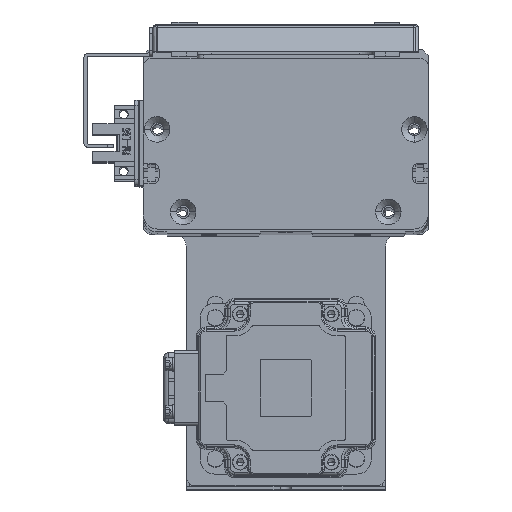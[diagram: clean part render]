
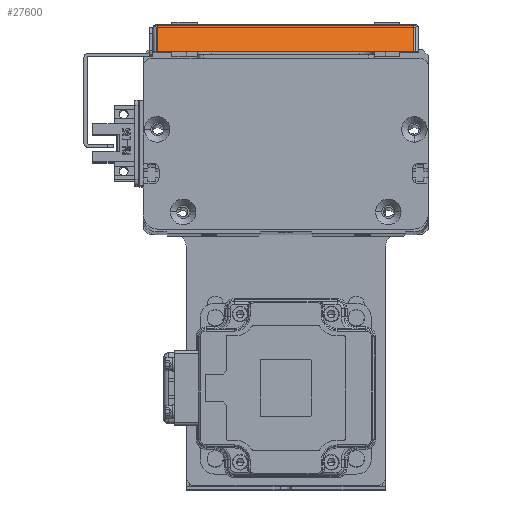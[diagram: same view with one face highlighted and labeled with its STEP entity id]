
A CAD part, top view. The second image highlights one B-rep face of the part: STEP entity #27600.
In plain terms, the highlighted planar face has unit normal (0, 0.707, 0.707) as drawn and (-0.707, 0, -0.707) by its records, which use the part's own axes.
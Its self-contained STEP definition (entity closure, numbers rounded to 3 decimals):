
#1966 = DIRECTION ( 'NONE',  ( 0.707, 0., -0.707 ) ) ;
#4018 = VECTOR ( 'NONE', #33790, 1000. ) ;
#5695 = CARTESIAN_POINT ( 'NONE',  ( -66.5, 93.4, 4.1 ) ) ;
#5907 = AXIS2_PLACEMENT_3D ( 'NONE', #7083, #55774, #40027 ) ;
#6755 = ORIENTED_EDGE ( 'NONE', *, *, #7705, .T. ) ;
#7083 = CARTESIAN_POINT ( 'NONE',  ( -68., 93.4, 5.6 ) ) ;
#7705 = EDGE_CURVE ( 'NONE', #37807, #56204, #13672, .T. ) ;
#8254 = VECTOR ( 'NONE', #59515, 1000. ) ;
#11093 = CARTESIAN_POINT ( 'NONE',  ( -57.298, 1.7, -5.102 ) ) ;
#11244 = CARTESIAN_POINT ( 'NONE',  ( -68., 1.7, 5.6 ) ) ;
#11980 = VECTOR ( 'NONE', #1966, 1000. ) ;
#13617 = CARTESIAN_POINT ( 'NONE',  ( -66.5, 1.7, 4.1 ) ) ;
#13672 = LINE ( 'NONE', #39110, #11980 ) ;
#15587 = EDGE_LOOP ( 'NONE', ( #55632, #43355, #6755, #51501 ) ) ;
#25341 = VERTEX_POINT ( 'NONE', #11093 ) ;
#27600 = ADVANCED_FACE ( 'NONE', ( #39423 ), #39564, .T. ) ;
#33790 = DIRECTION ( 'NONE',  ( 0., -1., 0. ) ) ;
#36797 = CARTESIAN_POINT ( 'NONE',  ( -57.298, 91.7, -5.102 ) ) ;
#37807 = VERTEX_POINT ( 'NONE', #51428 ) ;
#38954 = CARTESIAN_POINT ( 'NONE',  ( -57.298, 93.4, -5.102 ) ) ;
#39110 = CARTESIAN_POINT ( 'NONE',  ( -68., 91.7, 5.6 ) ) ;
#39423 = FACE_OUTER_BOUND ( 'NONE', #15587, .T. ) ;
#39564 = PLANE ( 'NONE',  #5907 ) ;
#40027 = DIRECTION ( 'NONE',  ( -0.707, 0., 0.707 ) ) ;
#43355 = ORIENTED_EDGE ( 'NONE', *, *, #67774, .T. ) ;
#48911 = VERTEX_POINT ( 'NONE', #13617 ) ;
#51428 = CARTESIAN_POINT ( 'NONE',  ( -66.5, 91.7, 4.1 ) ) ;
#51501 = ORIENTED_EDGE ( 'NONE', *, *, #57235, .T. ) ;
#55632 = ORIENTED_EDGE ( 'NONE', *, *, #61913, .T. ) ;
#55774 = DIRECTION ( 'NONE',  ( -0.707, 0., -0.707 ) ) ;
#56204 = VERTEX_POINT ( 'NONE', #36797 ) ;
#57064 = LINE ( 'NONE', #11244, #63756 ) ;
#57235 = EDGE_CURVE ( 'NONE', #56204, #25341, #62625, .T. ) ;
#59515 = DIRECTION ( 'NONE',  ( 0., 1., 0. ) ) ;
#61913 = EDGE_CURVE ( 'NONE', #25341, #48911, #57064, .T. ) ;
#62625 = LINE ( 'NONE', #38954, #4018 ) ;
#63756 = VECTOR ( 'NONE', #64595, 1000. ) ;
#64595 = DIRECTION ( 'NONE',  ( -0.707, 0., 0.707 ) ) ;
#65999 = LINE ( 'NONE', #5695, #8254 ) ;
#67774 = EDGE_CURVE ( 'NONE', #48911, #37807, #65999, .T. ) ;
